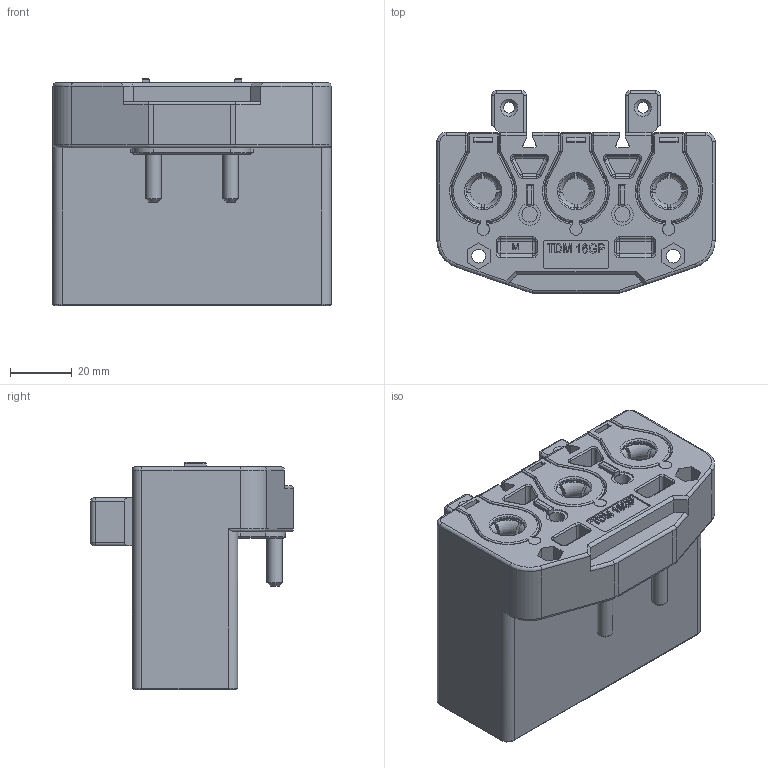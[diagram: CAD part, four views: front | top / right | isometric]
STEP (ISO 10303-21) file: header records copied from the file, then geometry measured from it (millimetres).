
FILE_DESCRIPTION(/* description */ (''),/* implementation_level */ '2;1');
FILE_NAME(/* name */ 'TDM 16GP F3_3D DATA.stp',/* time_stamp */ '2018-04-26T13:05:14+09:00',/* author */ (''),/* organization */ (''),/* preprocessor_version */ 'ST-DEVELOPER v15',/* originating_system */ 'SIEMENS PLM Software NX 9.0',/* authorisation */ '');
FILE_SCHEMA (('AP203_CONFIGURATION_CONTROLLED_3D_DESIGN_OF_MECHANICAL_PARTS_AND_ASSEMBLIES_MIM_LF { 1 0 10303 403 2 1 2}'));
Products named in the file (10): CONNECTED_SPRING_16GP_R00; PC-STUD BOLT M8xL30_R00; GP1-PG-9001_R00; GP1-PR-9001_R00; PC-SNAP RING C(13)_R00; GP1-MO-9002_R00; GP1-MO-9001_R03; GP1-AS-9001_R00; GP1-CP-9002_R00
Assembly tree (19 placements, depth 4):
  GP1-CP-9002_R00
    GP1-CP-9002_R00
      GP1-MO-9001_R03
      GP1-MO-9002_R00  x3
      GP1-AS-9001_R00  x3
        GP1-PR-9001_R00
        GP1-PG-9001_R00
        PC-STUD BOLT M8xL30_R00
        CONNECTED_SPRING_16GP_R00
      PC-SNAP RING C(13)_R00  x3
Bounding box: 90 x 65.5 x 73.5 mm (x, y, z)
Volume: 148638.5 mm3; surface area: 73799.9 mm2
Topology: 33 solids, 39 shells, 3064 faces, 10051 edges, 10433 vertices
Faces by surface type: torus 2039, plane 440, cylinder 407, bspline 74, cone 40, sphere 39, extrusion 25
Full cylindrical faces by diameter (mm): 2.4 x3, 3 x12, 3.5 x2, 4 x3, 4.5 x2, 5 x6, 6.6 x3, 8 x3, 10.3 x3, 11 x3, 12.4 x3, 13.4 x6, 13.5 x3, 14.021 x3, 20.7 x3
Entity records: 71357 total; most frequent: CARTESIAN_POINT 39366, DIRECTION 6416, ORIENTED_EDGE 4330, B_SPLINE_CURVE_WITH_KNOTS 2428, AXIS2_PLACEMENT_3D 2179, EDGE_CURVE 2167, VECTOR 2058, LINE 2033
